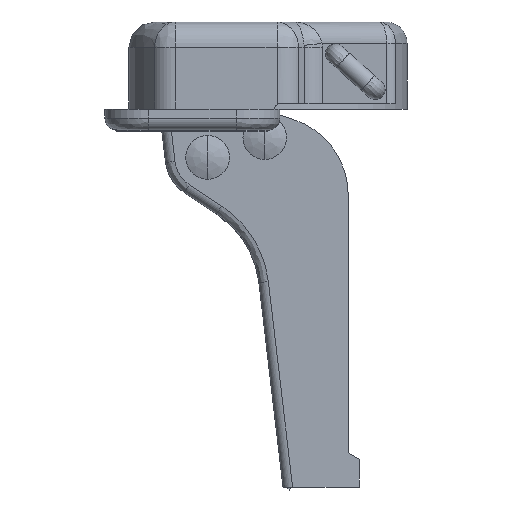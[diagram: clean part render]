
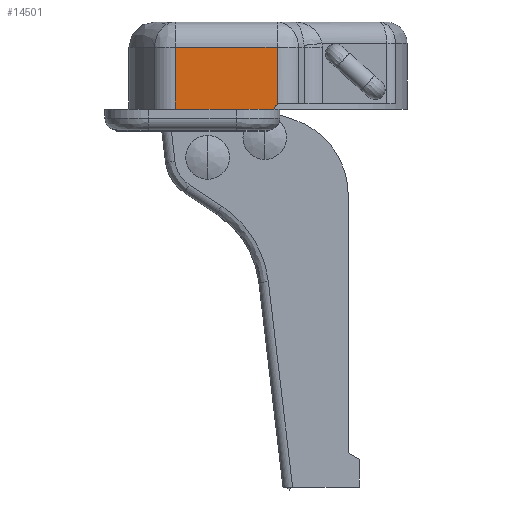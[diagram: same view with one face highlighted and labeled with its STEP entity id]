
A CAD part, left-side view. The second image highlights one B-rep face of the part: STEP entity #14501.
In plain terms, the highlighted planar face has unit normal (-1, 0, 0).
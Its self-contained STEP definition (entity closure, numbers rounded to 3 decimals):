
#2280 = ORIENTED_EDGE ( 'NONE', *, *, #6734, .F. ) ;
#2282 = ORIENTED_EDGE ( 'NONE', *, *, #16817, .T. ) ;
#2291 = ORIENTED_EDGE ( 'NONE', *, *, #6733, .F. ) ;
#2293 = ORIENTED_EDGE ( 'NONE', *, *, #16852, .T. ) ;
#2295 = ORIENTED_EDGE ( 'NONE', *, *, #16725, .T. ) ;
#2297 = ORIENTED_EDGE ( 'NONE', *, *, #16895, .F. ) ;
#5330 = VERTEX_POINT ( 'NONE', #5865 ) ;
#5366 = VERTEX_POINT ( 'NONE', #5921 ) ;
#5371 = VERTEX_POINT ( 'NONE', #5926 ) ;
#5482 = VERTEX_POINT ( 'NONE', #5962 ) ;
#5505 = VERTEX_POINT ( 'NONE', #5971 ) ;
#5545 = VERTEX_POINT ( 'NONE', #5997 ) ;
#5865 = CARTESIAN_POINT ( 'NONE',  ( -11.5, -11.26, 32.237 ) ) ;
#5921 = CARTESIAN_POINT ( 'NONE',  ( -11.5, -20.024, 30.692 ) ) ;
#5926 = CARTESIAN_POINT ( 'NONE',  ( -11.5, -9.099, 19.982 ) ) ;
#5962 = CARTESIAN_POINT ( 'NONE',  ( -11.5, -17.802, 18.089 ) ) ;
#5971 = CARTESIAN_POINT ( 'NONE',  ( -11.5, -10.719, 19.338 ) ) ;
#5997 = CARTESIAN_POINT ( 'NONE',  ( -11.5, -10.182, 19.791 ) ) ;
#6053 = AXIS2_PLACEMENT_3D ( 'NONE', #20487, #20488, #20489 ) ;
#6733 = EDGE_CURVE ( 'NONE', #5330, #5366, #12650, .T. ) ;
#6734 = EDGE_CURVE ( 'NONE', #5371, #5330, #12656, .T. ) ;
#10203 = CARTESIAN_POINT ( 'NONE',  ( -11.5, -20.024, 30.692 ) ) ;
#10207 = PLANE ( 'NONE',  #27098 ) ;
#10209 = DIRECTION ( 'NONE',  ( 1., 0., 0. ) ) ;
#10210 = DIRECTION ( 'NONE',  ( 0., 0.174, -0.985 ) ) ;
#11629 = CARTESIAN_POINT ( 'NONE',  ( -11.5, -14.239, 18.717 ) ) ;
#11630 = DIRECTION ( 'NONE',  ( 0., -0.985, -0.174 ) ) ;
#12650 = LINE ( 'NONE', #20365, #12657 ) ;
#12656 = LINE ( 'NONE', #18829, #12659 ) ;
#12657 = VECTOR ( 'NONE', #20354, 1000. ) ;
#12659 = VECTOR ( 'NONE', #18831, 1000. ) ;
#14501 = ADVANCED_FACE ( 'NONE', ( #15735 ), #10207, .F. ) ;
#15735 = FACE_OUTER_BOUND ( 'NONE', #27975, .T. ) ;
#16725 = EDGE_CURVE ( 'NONE', #5505, #5482, #30850, .T. ) ;
#16817 = EDGE_CURVE ( 'NONE', #5371, #5545, #30971, .T. ) ;
#16852 = EDGE_CURVE ( 'NONE', #5482, #5366, #31010, .T. ) ;
#16895 = EDGE_CURVE ( 'NONE', #5505, #5545, #31072, .T. ) ;
#18829 = CARTESIAN_POINT ( 'NONE',  ( -11.5, -10.149, 25.936 ) ) ;
#18831 = DIRECTION ( 'NONE',  ( 0., -0.174, 0.985 ) ) ;
#19971 = CARTESIAN_POINT ( 'NONE',  ( -11.5, -9.503, 19.91 ) ) ;
#19976 = DIRECTION ( 'NONE',  ( 0., -0.985, -0.174 ) ) ;
#20353 = CARTESIAN_POINT ( 'NONE',  ( -11.5, -18.913, 24.39 ) ) ;
#20354 = DIRECTION ( 'NONE',  ( 0., -0.985, -0.174 ) ) ;
#20356 = DIRECTION ( 'NONE',  ( 0., -0.174, 0.985 ) ) ;
#20365 = CARTESIAN_POINT ( 'NONE',  ( -11.5, -15.642, 31.465 ) ) ;
#20487 = CARTESIAN_POINT ( 'NONE',  ( -11.5, -10.06, 19.101 ) ) ;
#20488 = DIRECTION ( 'NONE',  ( -1., 0., 0. ) ) ;
#20489 = DIRECTION ( 'NONE',  ( 0., -1., 0. ) ) ;
#27098 = AXIS2_PLACEMENT_3D ( 'NONE', #10203, #10209, #10210 ) ;
#27975 = EDGE_LOOP ( 'NONE', ( #2280, #2282, #2297, #2295, #2293, #2291 ) ) ;
#30850 = LINE ( 'NONE', #11629, #30852 ) ;
#30852 = VECTOR ( 'NONE', #11630, 1000. ) ;
#30971 = LINE ( 'NONE', #19971, #30974 ) ;
#30974 = VECTOR ( 'NONE', #19976, 1000. ) ;
#31010 = LINE ( 'NONE', #20353, #31013 ) ;
#31013 = VECTOR ( 'NONE', #20356, 1000. ) ;
#31072 = CIRCLE ( 'NONE', #6053, 0.7 ) ;
